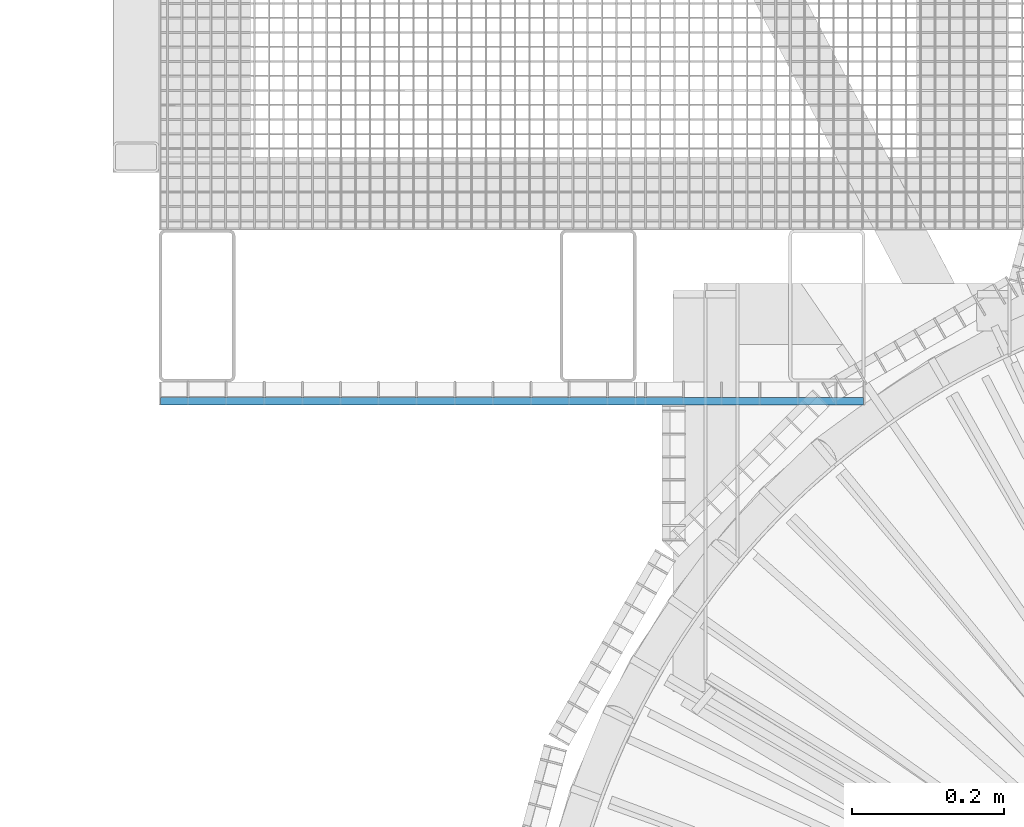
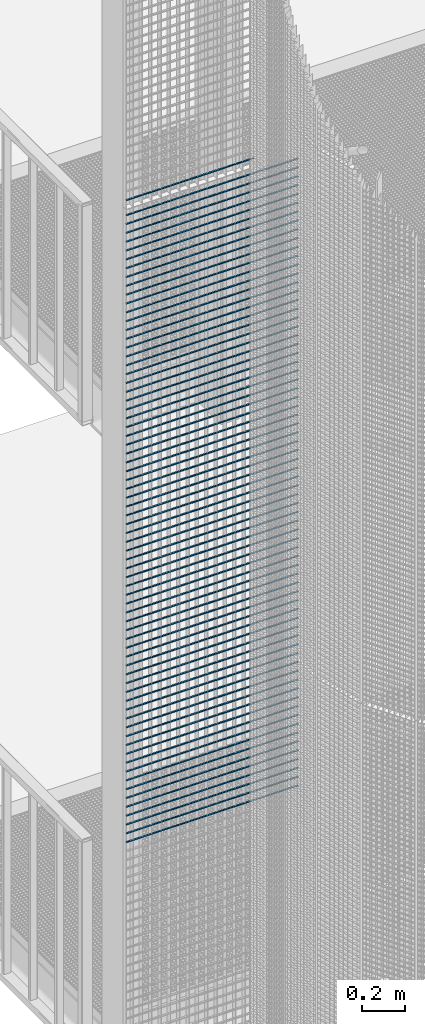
# One storey, part 208 of 1148: 73 beams, 2 elements without a shape of their own.
"""IFC2X3 building model written with IfcOpenShell, lengths in millimetres."""

from ifc_helpers import new_model, si_unit, frame, origin_with_axes, origin_2d_with_axis, place, context, subcontext, project, spatial, rectangle, extrude, material, type_object, element, aggregate, save


model = new_model("IFC2X3")

# Units and contexts
model_context = context("Model", 3, precision=1e-05, world=origin_with_axes())
body_context = subcontext(model_context, "Body", "Model", "MODEL_VIEW")
ifc_project = project(units=[si_unit("LENGTHUNIT", "METRE", prefix="MILLI"), si_unit("AREAUNIT", "SQUARE_METRE"), si_unit("VOLUMEUNIT", "CUBIC_METRE"), si_unit("MASSUNIT", "GRAM", prefix="KILO"), si_unit("TIMEUNIT", "SECOND"), si_unit("PLANEANGLEUNIT", "RADIAN"), si_unit("SOLIDANGLEUNIT", "STERADIAN"), si_unit("THERMODYNAMICTEMPERATUREUNIT", "DEGREE_CELSIUS"), si_unit("LUMINOUSINTENSITYUNIT", "LUMEN")], contexts=[model_context])

# Site, building, storey
site_placement = place(None, origin_with_axes())
site = spatial("IfcSite", under=ifc_project, at=site_placement, Name="Undefined", CompositionType="ELEMENT")
building_placement = place(site_placement, origin_with_axes())
building = spatial("IfcBuilding", under=site, at=building_placement, Name="Undefined", CompositionType="ELEMENT")
storey_placement = place(building_placement, origin_with_axes())
storey = spatial("IfcBuildingStorey", under=building, at=storey_placement, Name="Undefined", CompositionType="ELEMENT", Elevation=0.0)

# Assembly, beam
assembly_1_placement = place(storey_placement, origin_with_axes())
assembly_1 = element("IfcElementAssembly", 1, at=assembly_1_placement, inside=storey, Name="BORDURE", AssemblyPlace="NOTDEFINED", PredefinedType="NOTDEFINED")
ifc_material = material(Name="STEEL/S235JR")
beam_type = type_object("IfcBeamType", Name="PL2*10", PredefinedType="NOTDEFINED")
beam_1_placement = place(assembly_1_placement, frame((-1547.92041016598, 874.994689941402, 11239.998), z_axis=(0.0, -1.0, 0.0), x_axis=(1.0, 0.0, 0.0)))
beam_1 = element("IfcBeam", 2, at=beam_1_placement, type_object=beam_type, material=ifc_material, Name="ENTRETOISE", context=body_context, shape_type="SweptSolid", body=[
    extrude(rectangle(XDim=2.0, YDim=10.0, at=origin_2d_with_axis()), frame((685.0, 0.0, 0.0), z_axis=(-1.0, 0.0, 0.0), x_axis=(0.0, -1.0, 0.0)), (0.0, 0.0, 1.0), 685.0),
])
aggregate(assembly_1, [beam_1])

# Assembly, beams
assembly_2_placement = place(storey_placement, origin_with_axes())
assembly_2 = element("IfcElementAssembly", 3, at=assembly_2_placement, inside=storey, Name="BORDURE", AssemblyPlace="NOTDEFINED", PredefinedType="NOTDEFINED")
beam_2_placement = place(assembly_2_placement, frame((-1547.92041016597, 874.994689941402, 11154.998), z_axis=(0.0, -1.0, 0.0), x_axis=(1.0, 0.0, 0.0)))
beam_2 = element("IfcBeam", 4, at=beam_2_placement, type_object=beam_type, material=ifc_material, Name="ENTRETOISE", context=body_context, shape_type="SweptSolid", body=[
    extrude(rectangle(XDim=2.0, YDim=10.0, at=origin_2d_with_axis()), frame((922.0, 0.0, 0.0), z_axis=(-1.0, 0.0, 0.0), x_axis=(0.0, -1.0, 0.0)), (0.0, 0.0, 1.0), 922.0),
])
beam_3_placement = place(assembly_2_placement, frame((-1547.92041016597, 874.994689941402, 11104.998), z_axis=(0.0, -1.0, 0.0), x_axis=(1.0, 0.0, 0.0)))
beam_3 = element("IfcBeam", 5, at=beam_3_placement, type_object=beam_type, material=ifc_material, Name="ENTRETOISE", context=body_context, shape_type="SweptSolid", body=[
    extrude(rectangle(XDim=2.0, YDim=10.0, at=origin_2d_with_axis()), frame((922.0, 0.0, 0.0), z_axis=(-1.0, 0.0, 0.0), x_axis=(0.0, -1.0, 0.0)), (0.0, 0.0, 1.0), 922.0),
])
beam_4_placement = place(assembly_2_placement, frame((-1547.92041016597, 874.994689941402, 11054.998), z_axis=(0.0, -1.0, 0.0), x_axis=(1.0, 0.0, 0.0)))
beam_4 = element("IfcBeam", 6, at=beam_4_placement, type_object=beam_type, material=ifc_material, Name="ENTRETOISE", context=body_context, shape_type="SweptSolid", body=[
    extrude(rectangle(XDim=2.0, YDim=10.0, at=origin_2d_with_axis()), frame((922.0, 0.0, 0.0), z_axis=(-1.0, 0.0, 0.0), x_axis=(0.0, -1.0, 0.0)), (0.0, 0.0, 1.0), 922.0),
])
beam_5_placement = place(assembly_2_placement, frame((-1547.92041016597, 874.994689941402, 11004.998), z_axis=(0.0, -1.0, 0.0), x_axis=(1.0, 0.0, 0.0)))
beam_5 = element("IfcBeam", 7, at=beam_5_placement, type_object=beam_type, material=ifc_material, Name="ENTRETOISE", context=body_context, shape_type="SweptSolid", body=[
    extrude(rectangle(XDim=2.0, YDim=10.0, at=origin_2d_with_axis()), frame((922.0, 0.0, 0.0), z_axis=(-1.0, 0.0, 0.0), x_axis=(0.0, -1.0, 0.0)), (0.0, 0.0, 1.0), 922.0),
])
beam_6_placement = place(assembly_2_placement, frame((-1547.92041016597, 874.994689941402, 10954.998), z_axis=(0.0, -1.0, 0.0), x_axis=(1.0, 0.0, 0.0)))
beam_6 = element("IfcBeam", 8, at=beam_6_placement, type_object=beam_type, material=ifc_material, Name="ENTRETOISE", context=body_context, shape_type="SweptSolid", body=[
    extrude(rectangle(XDim=2.0, YDim=10.0, at=origin_2d_with_axis()), frame((922.0, 0.0, 0.0), z_axis=(-1.0, 0.0, 0.0), x_axis=(0.0, -1.0, 0.0)), (0.0, 0.0, 1.0), 922.0),
])
beam_7_placement = place(assembly_2_placement, frame((-1547.92041016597, 874.994689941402, 10904.998), z_axis=(0.0, -1.0, 0.0), x_axis=(1.0, 0.0, 0.0)))
beam_7 = element("IfcBeam", 9, at=beam_7_placement, type_object=beam_type, material=ifc_material, Name="ENTRETOISE", context=body_context, shape_type="SweptSolid", body=[
    extrude(rectangle(XDim=2.0, YDim=10.0, at=origin_2d_with_axis()), frame((922.0, 0.0, 0.0), z_axis=(-1.0, 0.0, 0.0), x_axis=(0.0, -1.0, 0.0)), (0.0, 0.0, 1.0), 922.0),
])
beam_8_placement = place(assembly_2_placement, frame((-1547.92041016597, 874.994689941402, 10854.998), z_axis=(0.0, -1.0, 0.0), x_axis=(1.0, 0.0, 0.0)))
beam_8 = element("IfcBeam", 10, at=beam_8_placement, type_object=beam_type, material=ifc_material, Name="ENTRETOISE", context=body_context, shape_type="SweptSolid", body=[
    extrude(rectangle(XDim=2.0, YDim=10.0, at=origin_2d_with_axis()), frame((922.0, 0.0, 0.0), z_axis=(-1.0, 0.0, 0.0), x_axis=(0.0, -1.0, 0.0)), (0.0, 0.0, 1.0), 922.0),
])
beam_9_placement = place(assembly_2_placement, frame((-1547.92041016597, 874.994689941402, 10804.998), z_axis=(0.0, -1.0, 0.0), x_axis=(1.0, 0.0, 0.0)))
beam_9 = element("IfcBeam", 11, at=beam_9_placement, type_object=beam_type, material=ifc_material, Name="ENTRETOISE", context=body_context, shape_type="SweptSolid", body=[
    extrude(rectangle(XDim=2.0, YDim=10.0, at=origin_2d_with_axis()), frame((922.0, 0.0, 0.0), z_axis=(-1.0, 0.0, 0.0), x_axis=(0.0, -1.0, 0.0)), (0.0, 0.0, 1.0), 922.0),
])
beam_10_placement = place(assembly_2_placement, frame((-1547.92041016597, 874.994689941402, 10754.998), z_axis=(0.0, -1.0, 0.0), x_axis=(1.0, 0.0, 0.0)))
beam_10 = element("IfcBeam", 12, at=beam_10_placement, type_object=beam_type, material=ifc_material, Name="ENTRETOISE", context=body_context, shape_type="SweptSolid", body=[
    extrude(rectangle(XDim=2.0, YDim=10.0, at=origin_2d_with_axis()), frame((922.0, 0.0, 0.0), z_axis=(-1.0, 0.0, 0.0), x_axis=(0.0, -1.0, 0.0)), (0.0, 0.0, 1.0), 922.0),
])
beam_11_placement = place(assembly_2_placement, frame((-1547.92041016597, 874.994689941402, 10704.998), z_axis=(0.0, -1.0, 0.0), x_axis=(1.0, 0.0, 0.0)))
beam_11 = element("IfcBeam", 13, at=beam_11_placement, type_object=beam_type, material=ifc_material, Name="ENTRETOISE", context=body_context, shape_type="SweptSolid", body=[
    extrude(rectangle(XDim=2.0, YDim=10.0, at=origin_2d_with_axis()), frame((922.0, 0.0, 0.0), z_axis=(-1.0, 0.0, 0.0), x_axis=(0.0, -1.0, 0.0)), (0.0, 0.0, 1.0), 922.0),
])
beam_12_placement = place(assembly_2_placement, frame((-1547.92041016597, 874.994689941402, 10654.998), z_axis=(0.0, -1.0, 0.0), x_axis=(1.0, 0.0, 0.0)))
beam_12 = element("IfcBeam", 14, at=beam_12_placement, type_object=beam_type, material=ifc_material, Name="ENTRETOISE", context=body_context, shape_type="SweptSolid", body=[
    extrude(rectangle(XDim=2.0, YDim=10.0, at=origin_2d_with_axis()), frame((922.0, 0.0, 0.0), z_axis=(-1.0, 0.0, 0.0), x_axis=(0.0, -1.0, 0.0)), (0.0, 0.0, 1.0), 922.0),
])
beam_13_placement = place(assembly_2_placement, frame((-1547.92041016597, 874.994689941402, 10604.998), z_axis=(0.0, -1.0, 0.0), x_axis=(1.0, 0.0, 0.0)))
beam_13 = element("IfcBeam", 15, at=beam_13_placement, type_object=beam_type, material=ifc_material, Name="ENTRETOISE", context=body_context, shape_type="SweptSolid", body=[
    extrude(rectangle(XDim=2.0, YDim=10.0, at=origin_2d_with_axis()), frame((922.0, 0.0, 0.0), z_axis=(-1.0, 0.0, 0.0), x_axis=(0.0, -1.0, 0.0)), (0.0, 0.0, 1.0), 922.0),
])
beam_14_placement = place(assembly_2_placement, frame((-1547.92041016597, 874.994689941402, 10554.998), z_axis=(0.0, -1.0, 0.0), x_axis=(1.0, 0.0, 0.0)))
beam_14 = element("IfcBeam", 16, at=beam_14_placement, type_object=beam_type, material=ifc_material, Name="ENTRETOISE", context=body_context, shape_type="SweptSolid", body=[
    extrude(rectangle(XDim=2.0, YDim=10.0, at=origin_2d_with_axis()), frame((922.0, 0.0, 0.0), z_axis=(-1.0, 0.0, 0.0), x_axis=(0.0, -1.0, 0.0)), (0.0, 0.0, 1.0), 922.0),
])
beam_15_placement = place(assembly_2_placement, frame((-1547.92041016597, 874.994689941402, 10504.998), z_axis=(0.0, -1.0, 0.0), x_axis=(1.0, 0.0, 0.0)))
beam_15 = element("IfcBeam", 17, at=beam_15_placement, type_object=beam_type, material=ifc_material, Name="ENTRETOISE", context=body_context, shape_type="SweptSolid", body=[
    extrude(rectangle(XDim=2.0, YDim=10.0, at=origin_2d_with_axis()), frame((922.0, 0.0, 0.0), z_axis=(-1.0, 0.0, 0.0), x_axis=(0.0, -1.0, 0.0)), (0.0, 0.0, 1.0), 922.0),
])
beam_16_placement = place(assembly_2_placement, frame((-1547.92041016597, 874.994689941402, 10454.998), z_axis=(0.0, -1.0, 0.0), x_axis=(1.0, 0.0, 0.0)))
beam_16 = element("IfcBeam", 18, at=beam_16_placement, type_object=beam_type, material=ifc_material, Name="ENTRETOISE", context=body_context, shape_type="SweptSolid", body=[
    extrude(rectangle(XDim=2.0, YDim=10.0, at=origin_2d_with_axis()), frame((922.0, 0.0, 0.0), z_axis=(-1.0, 0.0, 0.0), x_axis=(0.0, -1.0, 0.0)), (0.0, 0.0, 1.0), 922.0),
])
beam_17_placement = place(assembly_2_placement, frame((-1547.92041016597, 874.994689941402, 10404.998), z_axis=(0.0, -1.0, 0.0), x_axis=(1.0, 0.0, 0.0)))
beam_17 = element("IfcBeam", 19, at=beam_17_placement, type_object=beam_type, material=ifc_material, Name="ENTRETOISE", context=body_context, shape_type="SweptSolid", body=[
    extrude(rectangle(XDim=2.0, YDim=10.0, at=origin_2d_with_axis()), frame((922.0, 0.0, 0.0), z_axis=(-1.0, 0.0, 0.0), x_axis=(0.0, -1.0, 0.0)), (0.0, 0.0, 1.0), 922.0),
])
beam_18_placement = place(assembly_2_placement, frame((-1547.92041016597, 874.994689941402, 10354.998), z_axis=(0.0, -1.0, 0.0), x_axis=(1.0, 0.0, 0.0)))
beam_18 = element("IfcBeam", 20, at=beam_18_placement, type_object=beam_type, material=ifc_material, Name="ENTRETOISE", context=body_context, shape_type="SweptSolid", body=[
    extrude(rectangle(XDim=2.0, YDim=10.0, at=origin_2d_with_axis()), frame((922.0, 0.0, 0.0), z_axis=(-1.0, 0.0, 0.0), x_axis=(0.0, -1.0, 0.0)), (0.0, 0.0, 1.0), 922.0),
])
beam_19_placement = place(assembly_2_placement, frame((-1547.92041016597, 874.994689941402, 10304.998), z_axis=(0.0, -1.0, 0.0), x_axis=(1.0, 0.0, 0.0)))
beam_19 = element("IfcBeam", 21, at=beam_19_placement, type_object=beam_type, material=ifc_material, Name="ENTRETOISE", context=body_context, shape_type="SweptSolid", body=[
    extrude(rectangle(XDim=2.0, YDim=10.0, at=origin_2d_with_axis()), frame((922.0, 0.0, 0.0), z_axis=(-1.0, 0.0, 0.0), x_axis=(0.0, -1.0, 0.0)), (0.0, 0.0, 1.0), 922.0),
])
beam_20_placement = place(assembly_2_placement, frame((-1547.92041016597, 874.994689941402, 10254.998), z_axis=(0.0, -1.0, 0.0), x_axis=(1.0, 0.0, 0.0)))
beam_20 = element("IfcBeam", 22, at=beam_20_placement, type_object=beam_type, material=ifc_material, Name="ENTRETOISE", context=body_context, shape_type="SweptSolid", body=[
    extrude(rectangle(XDim=2.0, YDim=10.0, at=origin_2d_with_axis()), frame((922.0, 0.0, 0.0), z_axis=(-1.0, 0.0, 0.0), x_axis=(0.0, -1.0, 0.0)), (0.0, 0.0, 1.0), 922.0),
])
beam_21_placement = place(assembly_2_placement, frame((-1547.92041016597, 874.994689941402, 10204.998), z_axis=(0.0, -1.0, 0.0), x_axis=(1.0, 0.0, 0.0)))
beam_21 = element("IfcBeam", 23, at=beam_21_placement, type_object=beam_type, material=ifc_material, Name="ENTRETOISE", context=body_context, shape_type="SweptSolid", body=[
    extrude(rectangle(XDim=2.0, YDim=10.0, at=origin_2d_with_axis()), frame((922.0, 0.0, 0.0), z_axis=(-1.0, 0.0, 0.0), x_axis=(0.0, -1.0, 0.0)), (0.0, 0.0, 1.0), 922.0),
])
beam_22_placement = place(assembly_2_placement, frame((-1547.92041016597, 874.994689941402, 10154.998), z_axis=(0.0, -1.0, 0.0), x_axis=(1.0, 0.0, 0.0)))
beam_22 = element("IfcBeam", 24, at=beam_22_placement, type_object=beam_type, material=ifc_material, Name="ENTRETOISE", context=body_context, shape_type="SweptSolid", body=[
    extrude(rectangle(XDim=2.0, YDim=10.0, at=origin_2d_with_axis()), frame((922.0, 0.0, 0.0), z_axis=(-1.0, 0.0, 0.0), x_axis=(0.0, -1.0, 0.0)), (0.0, 0.0, 1.0), 922.0),
])
beam_23_placement = place(assembly_2_placement, frame((-1547.92041016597, 874.994689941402, 10104.998), z_axis=(0.0, -1.0, 0.0), x_axis=(1.0, 0.0, 0.0)))
beam_23 = element("IfcBeam", 25, at=beam_23_placement, type_object=beam_type, material=ifc_material, Name="ENTRETOISE", context=body_context, shape_type="SweptSolid", body=[
    extrude(rectangle(XDim=2.0, YDim=10.0, at=origin_2d_with_axis()), frame((922.0, 0.0, 0.0), z_axis=(-1.0, 0.0, 0.0), x_axis=(0.0, -1.0, 0.0)), (0.0, 0.0, 1.0), 922.0),
])
beam_24_placement = place(assembly_2_placement, frame((-1547.92041016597, 874.994689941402, 10054.998), z_axis=(0.0, -1.0, 0.0), x_axis=(1.0, 0.0, 0.0)))
beam_24 = element("IfcBeam", 26, at=beam_24_placement, type_object=beam_type, material=ifc_material, Name="ENTRETOISE", context=body_context, shape_type="SweptSolid", body=[
    extrude(rectangle(XDim=2.0, YDim=10.0, at=origin_2d_with_axis()), frame((922.0, 0.0, 0.0), z_axis=(-1.0, 0.0, 0.0), x_axis=(0.0, -1.0, 0.0)), (0.0, 0.0, 1.0), 922.0),
])
beam_25_placement = place(assembly_2_placement, frame((-1547.92041016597, 874.994689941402, 10004.998), z_axis=(0.0, -1.0, 0.0), x_axis=(1.0, 0.0, 0.0)))
beam_25 = element("IfcBeam", 27, at=beam_25_placement, type_object=beam_type, material=ifc_material, Name="ENTRETOISE", context=body_context, shape_type="SweptSolid", body=[
    extrude(rectangle(XDim=2.0, YDim=10.0, at=origin_2d_with_axis()), frame((922.0, 0.0, 0.0), z_axis=(-1.0, 0.0, 0.0), x_axis=(0.0, -1.0, 0.0)), (0.0, 0.0, 1.0), 922.0),
])
beam_26_placement = place(assembly_2_placement, frame((-1547.92041016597, 874.994689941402, 9954.998), z_axis=(0.0, -1.0, 0.0), x_axis=(1.0, 0.0, 0.0)))
beam_26 = element("IfcBeam", 28, at=beam_26_placement, type_object=beam_type, material=ifc_material, Name="ENTRETOISE", context=body_context, shape_type="SweptSolid", body=[
    extrude(rectangle(XDim=2.0, YDim=10.0, at=origin_2d_with_axis()), frame((922.0, 0.0, 0.0), z_axis=(-1.0, 0.0, 0.0), x_axis=(0.0, -1.0, 0.0)), (0.0, 0.0, 1.0), 922.0),
])
beam_27_placement = place(assembly_2_placement, frame((-1547.92041016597, 874.994689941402, 9904.998), z_axis=(0.0, -1.0, 0.0), x_axis=(1.0, 0.0, 0.0)))
beam_27 = element("IfcBeam", 29, at=beam_27_placement, type_object=beam_type, material=ifc_material, Name="ENTRETOISE", context=body_context, shape_type="SweptSolid", body=[
    extrude(rectangle(XDim=2.0, YDim=10.0, at=origin_2d_with_axis()), frame((922.0, 0.0, 0.0), z_axis=(-1.0, 0.0, 0.0), x_axis=(0.0, -1.0, 0.0)), (0.0, 0.0, 1.0), 922.0),
])
beam_28_placement = place(assembly_2_placement, frame((-1547.92041016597, 874.994689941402, 9854.998), z_axis=(0.0, -1.0, 0.0), x_axis=(1.0, 0.0, 0.0)))
beam_28 = element("IfcBeam", 30, at=beam_28_placement, type_object=beam_type, material=ifc_material, Name="ENTRETOISE", context=body_context, shape_type="SweptSolid", body=[
    extrude(rectangle(XDim=2.0, YDim=10.0, at=origin_2d_with_axis()), frame((922.0, 0.0, 0.0), z_axis=(-1.0, 0.0, 0.0), x_axis=(0.0, -1.0, 0.0)), (0.0, 0.0, 1.0), 922.0),
])
beam_29_placement = place(assembly_2_placement, frame((-1547.92041016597, 874.994689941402, 9804.998), z_axis=(0.0, -1.0, 0.0), x_axis=(1.0, 0.0, 0.0)))
beam_29 = element("IfcBeam", 31, at=beam_29_placement, type_object=beam_type, material=ifc_material, Name="ENTRETOISE", context=body_context, shape_type="SweptSolid", body=[
    extrude(rectangle(XDim=2.0, YDim=10.0, at=origin_2d_with_axis()), frame((922.0, 0.0, 0.0), z_axis=(-1.0, 0.0, 0.0), x_axis=(0.0, -1.0, 0.0)), (0.0, 0.0, 1.0), 922.0),
])
beam_30_placement = place(assembly_2_placement, frame((-1547.92041016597, 874.994689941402, 9754.998), z_axis=(0.0, -1.0, 0.0), x_axis=(1.0, 0.0, 0.0)))
beam_30 = element("IfcBeam", 32, at=beam_30_placement, type_object=beam_type, material=ifc_material, Name="ENTRETOISE", context=body_context, shape_type="SweptSolid", body=[
    extrude(rectangle(XDim=2.0, YDim=10.0, at=origin_2d_with_axis()), frame((922.0, 0.0, 0.0), z_axis=(-1.0, 0.0, 0.0), x_axis=(0.0, -1.0, 0.0)), (0.0, 0.0, 1.0), 922.0),
])
beam_31_placement = place(assembly_2_placement, frame((-1547.92041016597, 874.994689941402, 9704.998), z_axis=(0.0, -1.0, 0.0), x_axis=(1.0, 0.0, 0.0)))
beam_31 = element("IfcBeam", 33, at=beam_31_placement, type_object=beam_type, material=ifc_material, Name="ENTRETOISE", context=body_context, shape_type="SweptSolid", body=[
    extrude(rectangle(XDim=2.0, YDim=10.0, at=origin_2d_with_axis()), frame((922.0, 0.0, 0.0), z_axis=(-1.0, 0.0, 0.0), x_axis=(0.0, -1.0, 0.0)), (0.0, 0.0, 1.0), 922.0),
])
beam_32_placement = place(assembly_2_placement, frame((-1547.92041016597, 874.994689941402, 9654.998), z_axis=(0.0, -1.0, 0.0), x_axis=(1.0, 0.0, 0.0)))
beam_32 = element("IfcBeam", 34, at=beam_32_placement, type_object=beam_type, material=ifc_material, Name="ENTRETOISE", context=body_context, shape_type="SweptSolid", body=[
    extrude(rectangle(XDim=2.0, YDim=10.0, at=origin_2d_with_axis()), frame((922.0, 0.0, 0.0), z_axis=(-1.0, 0.0, 0.0), x_axis=(0.0, -1.0, 0.0)), (0.0, 0.0, 1.0), 922.0),
])
beam_33_placement = place(assembly_2_placement, frame((-1547.92041016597, 874.994689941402, 9604.998), z_axis=(0.0, -1.0, 0.0), x_axis=(1.0, 0.0, 0.0)))
beam_33 = element("IfcBeam", 35, at=beam_33_placement, type_object=beam_type, material=ifc_material, Name="ENTRETOISE", context=body_context, shape_type="SweptSolid", body=[
    extrude(rectangle(XDim=2.0, YDim=10.0, at=origin_2d_with_axis()), frame((922.0, 0.0, 0.0), z_axis=(-1.0, 0.0, 0.0), x_axis=(0.0, -1.0, 0.0)), (0.0, 0.0, 1.0), 922.0),
])
beam_34_placement = place(assembly_2_placement, frame((-1547.92041016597, 874.994689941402, 9554.998), z_axis=(0.0, -1.0, 0.0), x_axis=(1.0, 0.0, 0.0)))
beam_34 = element("IfcBeam", 36, at=beam_34_placement, type_object=beam_type, material=ifc_material, Name="ENTRETOISE", context=body_context, shape_type="SweptSolid", body=[
    extrude(rectangle(XDim=2.0, YDim=10.0, at=origin_2d_with_axis()), frame((922.0, 0.0, 0.0), z_axis=(-1.0, 0.0, 0.0), x_axis=(0.0, -1.0, 0.0)), (0.0, 0.0, 1.0), 922.0),
])
beam_35_placement = place(assembly_2_placement, frame((-1547.92041016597, 874.994689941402, 9504.998), z_axis=(0.0, -1.0, 0.0), x_axis=(1.0, 0.0, 0.0)))
beam_35 = element("IfcBeam", 37, at=beam_35_placement, type_object=beam_type, material=ifc_material, Name="ENTRETOISE", context=body_context, shape_type="SweptSolid", body=[
    extrude(rectangle(XDim=2.0, YDim=10.0, at=origin_2d_with_axis()), frame((922.0, 0.0, 0.0), z_axis=(-1.0, 0.0, 0.0), x_axis=(0.0, -1.0, 0.0)), (0.0, 0.0, 1.0), 922.0),
])
beam_36_placement = place(assembly_2_placement, frame((-1547.92041016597, 874.994689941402, 9454.998), z_axis=(0.0, -1.0, 0.0), x_axis=(1.0, 0.0, 0.0)))
beam_36 = element("IfcBeam", 38, at=beam_36_placement, type_object=beam_type, material=ifc_material, Name="ENTRETOISE", context=body_context, shape_type="SweptSolid", body=[
    extrude(rectangle(XDim=2.0, YDim=10.0, at=origin_2d_with_axis()), frame((922.0, 0.0, 0.0), z_axis=(-1.0, 0.0, 0.0), x_axis=(0.0, -1.0, 0.0)), (0.0, 0.0, 1.0), 922.0),
])
beam_37_placement = place(assembly_2_placement, frame((-1547.92041016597, 874.994689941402, 9404.998), z_axis=(0.0, -1.0, 0.0), x_axis=(1.0, 0.0, 0.0)))
beam_37 = element("IfcBeam", 39, at=beam_37_placement, type_object=beam_type, material=ifc_material, Name="ENTRETOISE", context=body_context, shape_type="SweptSolid", body=[
    extrude(rectangle(XDim=2.0, YDim=10.0, at=origin_2d_with_axis()), frame((922.0, 0.0, 0.0), z_axis=(-1.0, 0.0, 0.0), x_axis=(0.0, -1.0, 0.0)), (0.0, 0.0, 1.0), 922.0),
])
beam_38_placement = place(assembly_2_placement, frame((-1547.92041016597, 874.994689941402, 9354.998), z_axis=(0.0, -1.0, 0.0), x_axis=(1.0, 0.0, 0.0)))
beam_38 = element("IfcBeam", 40, at=beam_38_placement, type_object=beam_type, material=ifc_material, Name="ENTRETOISE", context=body_context, shape_type="SweptSolid", body=[
    extrude(rectangle(XDim=2.0, YDim=10.0, at=origin_2d_with_axis()), frame((922.0, 0.0, 0.0), z_axis=(-1.0, 0.0, 0.0), x_axis=(0.0, -1.0, 0.0)), (0.0, 0.0, 1.0), 922.0),
])
beam_39_placement = place(assembly_2_placement, frame((-1547.92041016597, 874.994689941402, 9304.998), z_axis=(0.0, -1.0, 0.0), x_axis=(1.0, 0.0, 0.0)))
beam_39 = element("IfcBeam", 41, at=beam_39_placement, type_object=beam_type, material=ifc_material, Name="ENTRETOISE", context=body_context, shape_type="SweptSolid", body=[
    extrude(rectangle(XDim=2.0, YDim=10.0, at=origin_2d_with_axis()), frame((922.0, 0.0, 0.0), z_axis=(-1.0, 0.0, 0.0), x_axis=(0.0, -1.0, 0.0)), (0.0, 0.0, 1.0), 922.0),
])
beam_40_placement = place(assembly_2_placement, frame((-1547.92041016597, 874.994689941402, 9254.998), z_axis=(0.0, -1.0, 0.0), x_axis=(1.0, 0.0, 0.0)))
beam_40 = element("IfcBeam", 42, at=beam_40_placement, type_object=beam_type, material=ifc_material, Name="ENTRETOISE", context=body_context, shape_type="SweptSolid", body=[
    extrude(rectangle(XDim=2.0, YDim=10.0, at=origin_2d_with_axis()), frame((922.0, 0.0, 0.0), z_axis=(-1.0, 0.0, 0.0), x_axis=(0.0, -1.0, 0.0)), (0.0, 0.0, 1.0), 922.0),
])
beam_41_placement = place(assembly_2_placement, frame((-1547.92041016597, 874.994689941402, 9204.998), z_axis=(0.0, -1.0, 0.0), x_axis=(1.0, 0.0, 0.0)))
beam_41 = element("IfcBeam", 43, at=beam_41_placement, type_object=beam_type, material=ifc_material, Name="ENTRETOISE", context=body_context, shape_type="SweptSolid", body=[
    extrude(rectangle(XDim=2.0, YDim=10.0, at=origin_2d_with_axis()), frame((922.0, 0.0, 0.0), z_axis=(-1.0, 0.0, 0.0), x_axis=(0.0, -1.0, 0.0)), (0.0, 0.0, 1.0), 922.0),
])
beam_42_placement = place(assembly_2_placement, frame((-1547.92041016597, 874.994689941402, 9154.998), z_axis=(0.0, -1.0, 0.0), x_axis=(1.0, 0.0, 0.0)))
beam_42 = element("IfcBeam", 44, at=beam_42_placement, type_object=beam_type, material=ifc_material, Name="ENTRETOISE", context=body_context, shape_type="SweptSolid", body=[
    extrude(rectangle(XDim=2.0, YDim=10.0, at=origin_2d_with_axis()), frame((922.0, 0.0, 0.0), z_axis=(-1.0, 0.0, 0.0), x_axis=(0.0, -1.0, 0.0)), (0.0, 0.0, 1.0), 922.0),
])
beam_43_placement = place(assembly_2_placement, frame((-1547.92041016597, 874.994689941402, 9104.998), z_axis=(0.0, -1.0, 0.0), x_axis=(1.0, 0.0, 0.0)))
beam_43 = element("IfcBeam", 45, at=beam_43_placement, type_object=beam_type, material=ifc_material, Name="ENTRETOISE", context=body_context, shape_type="SweptSolid", body=[
    extrude(rectangle(XDim=2.0, YDim=10.0, at=origin_2d_with_axis()), frame((922.0, 0.0, 0.0), z_axis=(-1.0, 0.0, 0.0), x_axis=(0.0, -1.0, 0.0)), (0.0, 0.0, 1.0), 922.0),
])
beam_44_placement = place(assembly_2_placement, frame((-1547.92041016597, 874.994689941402, 9054.998), z_axis=(0.0, -1.0, 0.0), x_axis=(1.0, 0.0, 0.0)))
beam_44 = element("IfcBeam", 46, at=beam_44_placement, type_object=beam_type, material=ifc_material, Name="ENTRETOISE", context=body_context, shape_type="SweptSolid", body=[
    extrude(rectangle(XDim=2.0, YDim=10.0, at=origin_2d_with_axis()), frame((922.0, 0.0, 0.0), z_axis=(-1.0, 0.0, 0.0), x_axis=(0.0, -1.0, 0.0)), (0.0, 0.0, 1.0), 922.0),
])
beam_45_placement = place(assembly_2_placement, frame((-1547.92041016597, 874.994689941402, 9004.998), z_axis=(0.0, -1.0, 0.0), x_axis=(1.0, 0.0, 0.0)))
beam_45 = element("IfcBeam", 47, at=beam_45_placement, type_object=beam_type, material=ifc_material, Name="ENTRETOISE", context=body_context, shape_type="SweptSolid", body=[
    extrude(rectangle(XDim=2.0, YDim=10.0, at=origin_2d_with_axis()), frame((922.0, 0.0, 0.0), z_axis=(-1.0, 0.0, 0.0), x_axis=(0.0, -1.0, 0.0)), (0.0, 0.0, 1.0), 922.0),
])
beam_46_placement = place(assembly_2_placement, frame((-1547.92041016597, 874.994689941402, 8954.998), z_axis=(0.0, -1.0, 0.0), x_axis=(1.0, 0.0, 0.0)))
beam_46 = element("IfcBeam", 48, at=beam_46_placement, type_object=beam_type, material=ifc_material, Name="ENTRETOISE", context=body_context, shape_type="SweptSolid", body=[
    extrude(rectangle(XDim=2.0, YDim=10.0, at=origin_2d_with_axis()), frame((922.0, 0.0, 0.0), z_axis=(-1.0, 0.0, 0.0), x_axis=(0.0, -1.0, 0.0)), (0.0, 0.0, 1.0), 922.0),
])
beam_47_placement = place(assembly_2_placement, frame((-1547.92041016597, 874.994689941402, 8904.998), z_axis=(0.0, -1.0, 0.0), x_axis=(1.0, 0.0, 0.0)))
beam_47 = element("IfcBeam", 49, at=beam_47_placement, type_object=beam_type, material=ifc_material, Name="ENTRETOISE", context=body_context, shape_type="SweptSolid", body=[
    extrude(rectangle(XDim=2.0, YDim=10.0, at=origin_2d_with_axis()), frame((922.0, 0.0, 0.0), z_axis=(-1.0, 0.0, 0.0), x_axis=(0.0, -1.0, 0.0)), (0.0, 0.0, 1.0), 922.0),
])
beam_48_placement = place(assembly_2_placement, frame((-1547.92041016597, 874.994689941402, 8854.998), z_axis=(0.0, -1.0, 0.0), x_axis=(1.0, 0.0, 0.0)))
beam_48 = element("IfcBeam", 50, at=beam_48_placement, type_object=beam_type, material=ifc_material, Name="ENTRETOISE", context=body_context, shape_type="SweptSolid", body=[
    extrude(rectangle(XDim=2.0, YDim=10.0, at=origin_2d_with_axis()), frame((922.0, 0.0, 0.0), z_axis=(-1.0, 0.0, 0.0), x_axis=(0.0, -1.0, 0.0)), (0.0, 0.0, 1.0), 922.0),
])
beam_49_placement = place(assembly_2_placement, frame((-1547.92041016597, 874.994689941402, 8804.998), z_axis=(0.0, -1.0, 0.0), x_axis=(1.0, 0.0, 0.0)))
beam_49 = element("IfcBeam", 51, at=beam_49_placement, type_object=beam_type, material=ifc_material, Name="ENTRETOISE", context=body_context, shape_type="SweptSolid", body=[
    extrude(rectangle(XDim=2.0, YDim=10.0, at=origin_2d_with_axis()), frame((922.0, 0.0, 0.0), z_axis=(-1.0, 0.0, 0.0), x_axis=(0.0, -1.0, 0.0)), (0.0, 0.0, 1.0), 922.0),
])
beam_50_placement = place(assembly_2_placement, frame((-1547.92041016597, 874.994689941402, 8754.998), z_axis=(0.0, -1.0, 0.0), x_axis=(1.0, 0.0, 0.0)))
beam_50 = element("IfcBeam", 52, at=beam_50_placement, type_object=beam_type, material=ifc_material, Name="ENTRETOISE", context=body_context, shape_type="SweptSolid", body=[
    extrude(rectangle(XDim=2.0, YDim=10.0, at=origin_2d_with_axis()), frame((922.0, 0.0, 0.0), z_axis=(-1.0, 0.0, 0.0), x_axis=(0.0, -1.0, 0.0)), (0.0, 0.0, 1.0), 922.0),
])
beam_51_placement = place(assembly_2_placement, frame((-1547.92041016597, 874.994689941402, 8704.998), z_axis=(0.0, -1.0, 0.0), x_axis=(1.0, 0.0, 0.0)))
beam_51 = element("IfcBeam", 53, at=beam_51_placement, type_object=beam_type, material=ifc_material, Name="ENTRETOISE", context=body_context, shape_type="SweptSolid", body=[
    extrude(rectangle(XDim=2.0, YDim=10.0, at=origin_2d_with_axis()), frame((922.0, 0.0, 0.0), z_axis=(-1.0, 0.0, 0.0), x_axis=(0.0, -1.0, 0.0)), (0.0, 0.0, 1.0), 922.0),
])
beam_52_placement = place(assembly_2_placement, frame((-1547.92041016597, 874.994689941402, 8654.998), z_axis=(0.0, -1.0, 0.0), x_axis=(1.0, 0.0, 0.0)))
beam_52 = element("IfcBeam", 54, at=beam_52_placement, type_object=beam_type, material=ifc_material, Name="ENTRETOISE", context=body_context, shape_type="SweptSolid", body=[
    extrude(rectangle(XDim=2.0, YDim=10.0, at=origin_2d_with_axis()), frame((922.0, 0.0, 0.0), z_axis=(-1.0, 0.0, 0.0), x_axis=(0.0, -1.0, 0.0)), (0.0, 0.0, 1.0), 922.0),
])
beam_53_placement = place(assembly_2_placement, frame((-1547.92041016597, 874.994689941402, 8604.998), z_axis=(0.0, -1.0, 0.0), x_axis=(1.0, 0.0, 0.0)))
beam_53 = element("IfcBeam", 55, at=beam_53_placement, type_object=beam_type, material=ifc_material, Name="ENTRETOISE", context=body_context, shape_type="SweptSolid", body=[
    extrude(rectangle(XDim=2.0, YDim=10.0, at=origin_2d_with_axis()), frame((922.0, 0.0, 0.0), z_axis=(-1.0, 0.0, 0.0), x_axis=(0.0, -1.0, 0.0)), (0.0, 0.0, 1.0), 922.0),
])
beam_54_placement = place(assembly_2_placement, frame((-1547.92041016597, 874.994689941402, 8554.998), z_axis=(0.0, -1.0, 0.0), x_axis=(1.0, 0.0, 0.0)))
beam_54 = element("IfcBeam", 56, at=beam_54_placement, type_object=beam_type, material=ifc_material, Name="ENTRETOISE", context=body_context, shape_type="SweptSolid", body=[
    extrude(rectangle(XDim=2.0, YDim=10.0, at=origin_2d_with_axis()), frame((922.0, 0.0, 0.0), z_axis=(-1.0, 0.0, 0.0), x_axis=(0.0, -1.0, 0.0)), (0.0, 0.0, 1.0), 922.0),
])
beam_55_placement = place(assembly_2_placement, frame((-1547.92041016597, 874.994689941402, 8504.998), z_axis=(0.0, -1.0, 0.0), x_axis=(1.0, 0.0, 0.0)))
beam_55 = element("IfcBeam", 57, at=beam_55_placement, type_object=beam_type, material=ifc_material, Name="ENTRETOISE", context=body_context, shape_type="SweptSolid", body=[
    extrude(rectangle(XDim=2.0, YDim=10.0, at=origin_2d_with_axis()), frame((922.0, 0.0, 0.0), z_axis=(-1.0, 0.0, 0.0), x_axis=(0.0, -1.0, 0.0)), (0.0, 0.0, 1.0), 922.0),
])
beam_56_placement = place(assembly_2_placement, frame((-1547.92041016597, 874.994689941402, 8454.998), z_axis=(0.0, -1.0, 0.0), x_axis=(1.0, 0.0, 0.0)))
beam_56 = element("IfcBeam", 58, at=beam_56_placement, type_object=beam_type, material=ifc_material, Name="ENTRETOISE", context=body_context, shape_type="SweptSolid", body=[
    extrude(rectangle(XDim=2.0, YDim=10.0, at=origin_2d_with_axis()), frame((922.0, 0.0, 0.0), z_axis=(-1.0, 0.0, 0.0), x_axis=(0.0, -1.0, 0.0)), (0.0, 0.0, 1.0), 922.0),
])
beam_57_placement = place(assembly_2_placement, frame((-1547.92041016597, 874.994689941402, 8404.998), z_axis=(0.0, -1.0, 0.0), x_axis=(1.0, 0.0, 0.0)))
beam_57 = element("IfcBeam", 59, at=beam_57_placement, type_object=beam_type, material=ifc_material, Name="ENTRETOISE", context=body_context, shape_type="SweptSolid", body=[
    extrude(rectangle(XDim=2.0, YDim=10.0, at=origin_2d_with_axis()), frame((922.0, 0.0, 0.0), z_axis=(-1.0, 0.0, 0.0), x_axis=(0.0, -1.0, 0.0)), (0.0, 0.0, 1.0), 922.0),
])
beam_58_placement = place(assembly_2_placement, frame((-1547.92041016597, 874.994689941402, 8354.998), z_axis=(0.0, -1.0, 0.0), x_axis=(1.0, 0.0, 0.0)))
beam_58 = element("IfcBeam", 60, at=beam_58_placement, type_object=beam_type, material=ifc_material, Name="ENTRETOISE", context=body_context, shape_type="SweptSolid", body=[
    extrude(rectangle(XDim=2.0, YDim=10.0, at=origin_2d_with_axis()), frame((922.0, 0.0, 0.0), z_axis=(-1.0, 0.0, 0.0), x_axis=(0.0, -1.0, 0.0)), (0.0, 0.0, 1.0), 922.0),
])
beam_59_placement = place(assembly_2_placement, frame((-1547.92041016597, 874.994689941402, 8304.998), z_axis=(0.0, -1.0, 0.0), x_axis=(1.0, 0.0, 0.0)))
beam_59 = element("IfcBeam", 61, at=beam_59_placement, type_object=beam_type, material=ifc_material, Name="ENTRETOISE", context=body_context, shape_type="SweptSolid", body=[
    extrude(rectangle(XDim=2.0, YDim=10.0, at=origin_2d_with_axis()), frame((922.0, 0.0, 0.0), z_axis=(-1.0, 0.0, 0.0), x_axis=(0.0, -1.0, 0.0)), (0.0, 0.0, 1.0), 922.0),
])
beam_60_placement = place(assembly_2_placement, frame((-1547.92041016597, 874.994689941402, 8254.998), z_axis=(0.0, -1.0, 0.0), x_axis=(1.0, 0.0, 0.0)))
beam_60 = element("IfcBeam", 62, at=beam_60_placement, type_object=beam_type, material=ifc_material, Name="ENTRETOISE", context=body_context, shape_type="SweptSolid", body=[
    extrude(rectangle(XDim=2.0, YDim=10.0, at=origin_2d_with_axis()), frame((922.0, 0.0, 0.0), z_axis=(-1.0, 0.0, 0.0), x_axis=(0.0, -1.0, 0.0)), (0.0, 0.0, 1.0), 922.0),
])
beam_61_placement = place(assembly_2_placement, frame((-1547.92041016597, 874.994689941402, 8204.998), z_axis=(0.0, -1.0, 0.0), x_axis=(1.0, 0.0, 0.0)))
beam_61 = element("IfcBeam", 63, at=beam_61_placement, type_object=beam_type, material=ifc_material, Name="ENTRETOISE", context=body_context, shape_type="SweptSolid", body=[
    extrude(rectangle(XDim=2.0, YDim=10.0, at=origin_2d_with_axis()), frame((922.0, 0.0, 0.0), z_axis=(-1.0, 0.0, 0.0), x_axis=(0.0, -1.0, 0.0)), (0.0, 0.0, 1.0), 922.0),
])
beam_62_placement = place(assembly_2_placement, frame((-1547.92041016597, 874.994689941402, 8154.998), z_axis=(0.0, -1.0, 0.0), x_axis=(1.0, 0.0, 0.0)))
beam_62 = element("IfcBeam", 64, at=beam_62_placement, type_object=beam_type, material=ifc_material, Name="ENTRETOISE", context=body_context, shape_type="SweptSolid", body=[
    extrude(rectangle(XDim=2.0, YDim=10.0, at=origin_2d_with_axis()), frame((922.0, 0.0, 0.0), z_axis=(-1.0, 0.0, 0.0), x_axis=(0.0, -1.0, 0.0)), (0.0, 0.0, 1.0), 922.0),
])
beam_63_placement = place(assembly_2_placement, frame((-1547.92041016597, 874.994689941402, 8104.998), z_axis=(0.0, -1.0, 0.0), x_axis=(1.0, 0.0, 0.0)))
beam_63 = element("IfcBeam", 65, at=beam_63_placement, type_object=beam_type, material=ifc_material, Name="ENTRETOISE", context=body_context, shape_type="SweptSolid", body=[
    extrude(rectangle(XDim=2.0, YDim=10.0, at=origin_2d_with_axis()), frame((922.0, 0.0, 0.0), z_axis=(-1.0, 0.0, 0.0), x_axis=(0.0, -1.0, 0.0)), (0.0, 0.0, 1.0), 922.0),
])
beam_64_placement = place(assembly_2_placement, frame((-1547.92041016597, 874.994689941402, 8054.998), z_axis=(0.0, -1.0, 0.0), x_axis=(1.0, 0.0, 0.0)))
beam_64 = element("IfcBeam", 66, at=beam_64_placement, type_object=beam_type, material=ifc_material, Name="ENTRETOISE", context=body_context, shape_type="SweptSolid", body=[
    extrude(rectangle(XDim=2.0, YDim=10.0, at=origin_2d_with_axis()), frame((922.0, 0.0, 0.0), z_axis=(-1.0, 0.0, 0.0), x_axis=(0.0, -1.0, 0.0)), (0.0, 0.0, 1.0), 922.0),
])
beam_65_placement = place(assembly_2_placement, frame((-1547.92041016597, 874.994689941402, 8004.998), z_axis=(0.0, -1.0, 0.0), x_axis=(1.0, 0.0, 0.0)))
beam_65 = element("IfcBeam", 67, at=beam_65_placement, type_object=beam_type, material=ifc_material, Name="ENTRETOISE", context=body_context, shape_type="SweptSolid", body=[
    extrude(rectangle(XDim=2.0, YDim=10.0, at=origin_2d_with_axis()), frame((922.0, 0.0, 0.0), z_axis=(-1.0, 0.0, 0.0), x_axis=(0.0, -1.0, 0.0)), (0.0, 0.0, 1.0), 922.0),
])
beam_66_placement = place(assembly_2_placement, frame((-1547.92041016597, 874.994689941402, 7954.998), z_axis=(0.0, -1.0, 0.0), x_axis=(1.0, 0.0, 0.0)))
beam_66 = element("IfcBeam", 68, at=beam_66_placement, type_object=beam_type, material=ifc_material, Name="ENTRETOISE", context=body_context, shape_type="SweptSolid", body=[
    extrude(rectangle(XDim=2.0, YDim=10.0, at=origin_2d_with_axis()), frame((922.0, 0.0, 0.0), z_axis=(-1.0, 0.0, 0.0), x_axis=(0.0, -1.0, 0.0)), (0.0, 0.0, 1.0), 922.0),
])
beam_67_placement = place(assembly_2_placement, frame((-1547.92041016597, 874.994689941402, 7904.998), z_axis=(0.0, -1.0, 0.0), x_axis=(1.0, 0.0, 0.0)))
beam_67 = element("IfcBeam", 69, at=beam_67_placement, type_object=beam_type, material=ifc_material, Name="ENTRETOISE", context=body_context, shape_type="SweptSolid", body=[
    extrude(rectangle(XDim=2.0, YDim=10.0, at=origin_2d_with_axis()), frame((922.0, 0.0, 0.0), z_axis=(-1.0, 0.0, 0.0), x_axis=(0.0, -1.0, 0.0)), (0.0, 0.0, 1.0), 922.0),
])
beam_68_placement = place(assembly_2_placement, frame((-1547.92041016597, 874.994689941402, 7854.998), z_axis=(0.0, -1.0, 0.0), x_axis=(1.0, 0.0, 0.0)))
beam_68 = element("IfcBeam", 70, at=beam_68_placement, type_object=beam_type, material=ifc_material, Name="ENTRETOISE", context=body_context, shape_type="SweptSolid", body=[
    extrude(rectangle(XDim=2.0, YDim=10.0, at=origin_2d_with_axis()), frame((922.0, 0.0, 0.0), z_axis=(-1.0, 0.0, 0.0), x_axis=(0.0, -1.0, 0.0)), (0.0, 0.0, 1.0), 922.0),
])
beam_69_placement = place(assembly_2_placement, frame((-1547.92041016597, 874.994689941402, 7804.998), z_axis=(0.0, -1.0, 0.0), x_axis=(1.0, 0.0, 0.0)))
beam_69 = element("IfcBeam", 71, at=beam_69_placement, type_object=beam_type, material=ifc_material, Name="ENTRETOISE", context=body_context, shape_type="SweptSolid", body=[
    extrude(rectangle(XDim=2.0, YDim=10.0, at=origin_2d_with_axis()), frame((922.0, 0.0, 0.0), z_axis=(-1.0, 0.0, 0.0), x_axis=(0.0, -1.0, 0.0)), (0.0, 0.0, 1.0), 922.0),
])
beam_70_placement = place(assembly_2_placement, frame((-1547.92041016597, 874.994689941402, 7754.998), z_axis=(0.0, -1.0, 0.0), x_axis=(1.0, 0.0, 0.0)))
beam_70 = element("IfcBeam", 72, at=beam_70_placement, type_object=beam_type, material=ifc_material, Name="ENTRETOISE", context=body_context, shape_type="SweptSolid", body=[
    extrude(rectangle(XDim=2.0, YDim=10.0, at=origin_2d_with_axis()), frame((922.0, 0.0, 0.0), z_axis=(-1.0, 0.0, 0.0), x_axis=(0.0, -1.0, 0.0)), (0.0, 0.0, 1.0), 922.0),
])
beam_71_placement = place(assembly_2_placement, frame((-1547.92041016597, 874.994689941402, 7704.998), z_axis=(0.0, -1.0, 0.0), x_axis=(1.0, 0.0, 0.0)))
beam_71 = element("IfcBeam", 73, at=beam_71_placement, type_object=beam_type, material=ifc_material, Name="ENTRETOISE", context=body_context, shape_type="SweptSolid", body=[
    extrude(rectangle(XDim=2.0, YDim=10.0, at=origin_2d_with_axis()), frame((922.0, 0.0, 0.0), z_axis=(-1.0, 0.0, 0.0), x_axis=(0.0, -1.0, 0.0)), (0.0, 0.0, 1.0), 922.0),
])
beam_72_placement = place(assembly_2_placement, frame((-1547.92041016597, 874.994689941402, 7654.998), z_axis=(0.0, -1.0, 0.0), x_axis=(1.0, 0.0, 0.0)))
beam_72 = element("IfcBeam", 74, at=beam_72_placement, type_object=beam_type, material=ifc_material, Name="ENTRETOISE", context=body_context, shape_type="SweptSolid", body=[
    extrude(rectangle(XDim=2.0, YDim=10.0, at=origin_2d_with_axis()), frame((922.0, 0.0, 0.0), z_axis=(-1.0, 0.0, 0.0), x_axis=(0.0, -1.0, 0.0)), (0.0, 0.0, 1.0), 922.0),
])
beam_73_placement = place(assembly_2_placement, frame((-1547.92041016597, 874.994689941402, 7604.998), z_axis=(0.0, -1.0, 0.0), x_axis=(1.0, 0.0, 0.0)))
beam_73 = element("IfcBeam", 75, at=beam_73_placement, type_object=beam_type, material=ifc_material, Name="ENTRETOISE", context=body_context, shape_type="SweptSolid", body=[
    extrude(rectangle(XDim=2.0, YDim=10.0, at=origin_2d_with_axis()), frame((922.0, 0.0, 0.0), z_axis=(-1.0, 0.0, 0.0), x_axis=(0.0, -1.0, 0.0)), (0.0, 0.0, 1.0), 922.0),
])
aggregate(assembly_2, [beam_2, beam_3, beam_4, beam_5, beam_6, beam_7, beam_8, beam_9, beam_10, beam_11, beam_12, beam_13, beam_14, beam_15, beam_16, beam_17, beam_18, beam_19, beam_20, beam_21, beam_22, beam_23, beam_24, beam_25, beam_26, beam_27, beam_28, beam_29, beam_30, beam_31, beam_32, beam_33, beam_34, beam_35, beam_36, beam_37, beam_38, beam_39, beam_40, beam_41, beam_42, beam_43, beam_44, beam_45, beam_46, beam_47, beam_48, beam_49, beam_50, beam_51, beam_52, beam_53, beam_54, beam_55, beam_56, beam_57, beam_58, beam_59, beam_60, beam_61, beam_62, beam_63, beam_64, beam_65, beam_66, beam_67, beam_68, beam_69, beam_70, beam_71, beam_72, beam_73])

save(model, "model.ifc")
